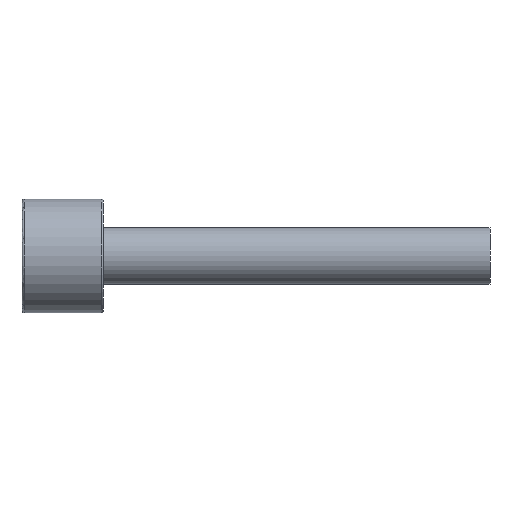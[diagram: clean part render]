
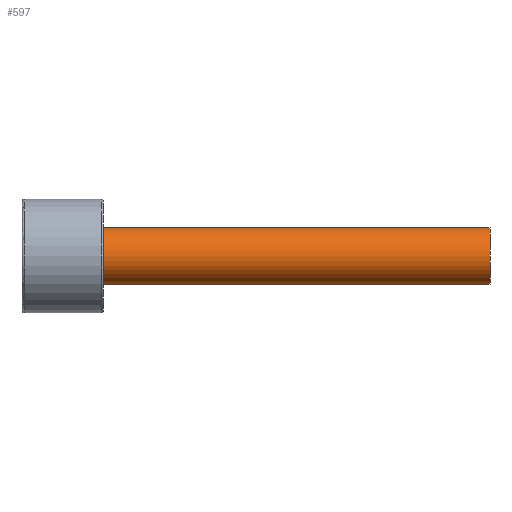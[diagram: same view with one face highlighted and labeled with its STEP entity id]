
A CAD part, front view. The second image highlights one B-rep face of the part: STEP entity #597.
In plain terms, the highlighted cylindrical face has radius 7 mm (diameter 14 mm), a partial arc.
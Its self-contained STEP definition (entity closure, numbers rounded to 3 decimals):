
#431=CARTESIAN_POINT('Vertex',(115.,0.,7.)) ;
#434=CARTESIAN_POINT('Axis2P3D Location',(115.,0.,0.)) ;
#438=CARTESIAN_POINT('Vertex',(115.,-7.,0.)) ;
#441=CARTESIAN_POINT('Axis2P3D Location',(115.,0.,0.)) ;
#445=CARTESIAN_POINT('Vertex',(115.,0.,-7.)) ;
#537=CARTESIAN_POINT('Line Origine',(115.,0.,7.)) ;
#541=CARTESIAN_POINT('Vertex',(20.,0.,7.)) ;
#544=CARTESIAN_POINT('Line Origine',(115.,0.,-7.)) ;
#548=CARTESIAN_POINT('Vertex',(20.,0.,-7.)) ;
#572=CARTESIAN_POINT('Axis2P3D Location',(115.,0.,0.)) ;
#577=CARTESIAN_POINT('Axis2P3D Location',(20.,0.,0.)) ;
#581=CARTESIAN_POINT('Vertex',(20.,-7.,0.)) ;
#584=CARTESIAN_POINT('Axis2P3D Location',(20.,0.,0.)) ;
#435=DIRECTION('Axis2P3D Direction',(1.,0.,-0.)) ;
#442=DIRECTION('Axis2P3D Direction',(1.,0.,-0.)) ;
#538=DIRECTION('Vector Direction',(-1.,0.,0.)) ;
#545=DIRECTION('Vector Direction',(-1.,0.,0.)) ;
#573=DIRECTION('Axis2P3D Direction',(-1.,-0.,-0.)) ;
#574=DIRECTION('Axis2P3D XDirection',(0.,0.,-1.)) ;
#578=DIRECTION('Axis2P3D Direction',(-1.,-0.,-0.)) ;
#585=DIRECTION('Axis2P3D Direction',(-1.,-0.,-0.)) ;
#436=AXIS2_PLACEMENT_3D('Circle Axis2P3D',#434,#435,$) ;
#443=AXIS2_PLACEMENT_3D('Circle Axis2P3D',#441,#442,$) ;
#575=AXIS2_PLACEMENT_3D('Cylinder Axis2P3D',#572,#573,#574) ;
#579=AXIS2_PLACEMENT_3D('Circle Axis2P3D',#577,#578,$) ;
#586=AXIS2_PLACEMENT_3D('Circle Axis2P3D',#584,#585,$) ;
#590=ORIENTED_EDGE('',*,*,#550,.T.) ;
#591=ORIENTED_EDGE('',*,*,#447,.F.) ;
#592=ORIENTED_EDGE('',*,*,#440,.F.) ;
#593=ORIENTED_EDGE('',*,*,#543,.T.) ;
#594=ORIENTED_EDGE('',*,*,#583,.T.) ;
#595=ORIENTED_EDGE('',*,*,#588,.T.) ;
#539=VECTOR('Line Direction',#538,1.) ;
#546=VECTOR('Line Direction',#545,1.) ;
#597=ADVANCED_FACE('367F-14X115',(#596),#576,.T.) ;
#437=CIRCLE('generated circle',#436,7.) ;
#444=CIRCLE('generated circle',#443,7.) ;
#580=CIRCLE('generated circle',#579,7.) ;
#587=CIRCLE('generated circle',#586,7.) ;
#576=CYLINDRICAL_SURFACE('generated cylinder',#575,7.) ;
#440=EDGE_CURVE('',#432,#439,#437,.T.) ;
#447=EDGE_CURVE('',#439,#446,#444,.T.) ;
#543=EDGE_CURVE('',#432,#542,#540,.T.) ;
#550=EDGE_CURVE('',#549,#446,#547,.F.) ;
#583=EDGE_CURVE('',#542,#582,#580,.F.) ;
#588=EDGE_CURVE('',#582,#549,#587,.F.) ;
#589=EDGE_LOOP('',(#590,#591,#592,#593,#594,#595)) ;
#596=FACE_OUTER_BOUND('',#589,.T.) ;
#540=LINE('Line',#537,#539) ;
#547=LINE('Line',#544,#546) ;
#432=VERTEX_POINT('',#431) ;
#439=VERTEX_POINT('',#438) ;
#446=VERTEX_POINT('',#445) ;
#542=VERTEX_POINT('',#541) ;
#549=VERTEX_POINT('',#548) ;
#582=VERTEX_POINT('',#581) ;
